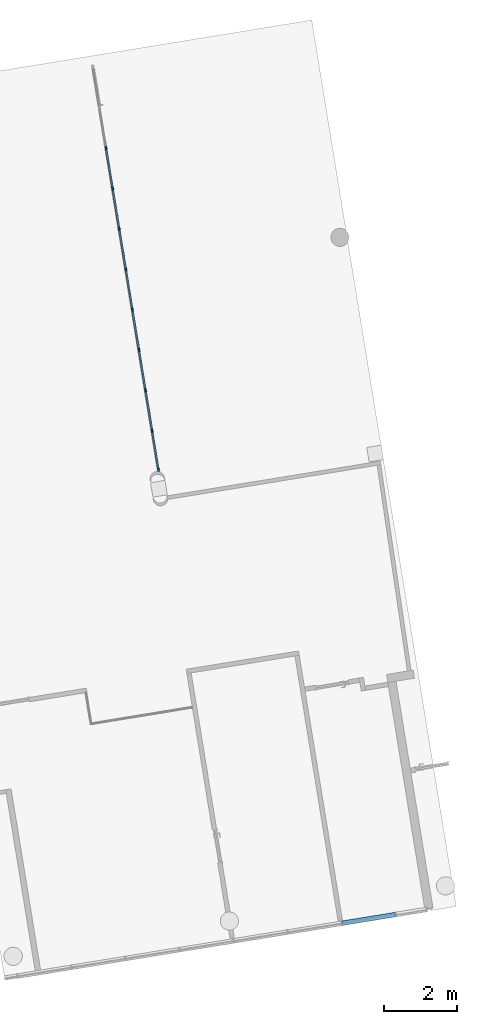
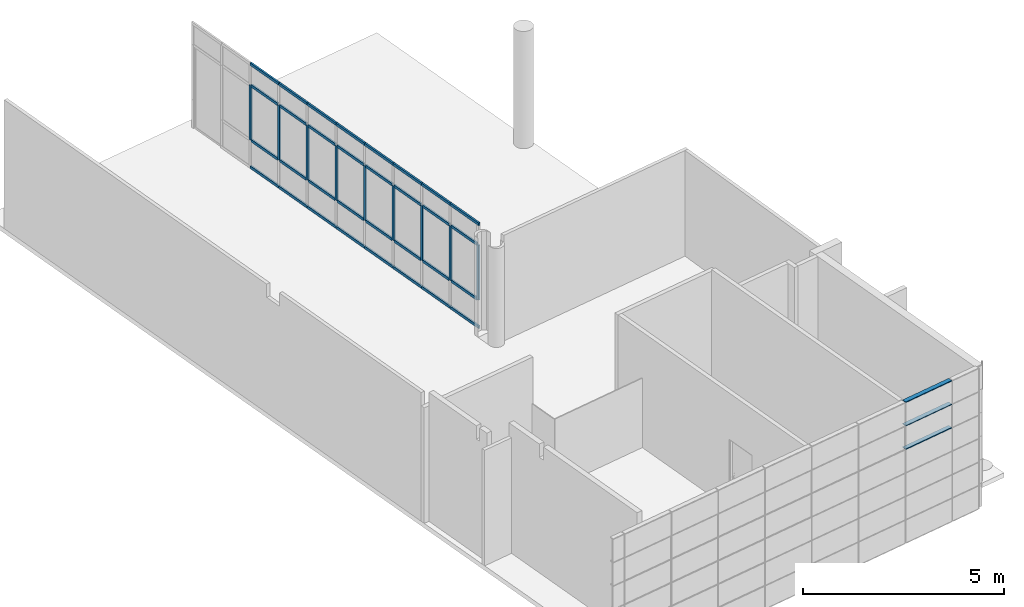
# One storey, part 2 of 18: 44 members, 2 elements without a shape of their own.
"""IFC2X3 building model written with IfcOpenShell, lengths in millimetres."""

from ifc_helpers import new_model, entity, si_unit, converted_unit, derived_unit, direction, frame, frame_2d, origin, origin_with_axes, origin_2d_with_axis, place, context, subcontext, project, spatial, rectangle, extrude, source, transform, mapped, material, type_object, element, aggregate, save


model = new_model("IFC2X3")

# Units and contexts
model_context = context("Model", 3, precision=0.01, world=origin(), true_north=direction((6.12323399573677e-17, 1.0)))
plan_context = context("Plan", 3, precision=1e-05, world=origin_with_axes())
body_context = subcontext(model_context, "Body", "Model", "MODEL_VIEW")
ifc_project = project(units=[converted_unit("PLANEANGLEUNIT", "DEGREE", entity("IfcPositiveLengthMeasure", 0.0174532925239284), si_unit("PLANEANGLEUNIT", "RADIAN"), dimensions=[0, 0, 0, 0, 0, 0, 0]), si_unit("AREAUNIT", "SQUARE_METRE"), si_unit("LENGTHUNIT", "METRE", prefix="MILLI"), si_unit("MASSUNIT", "GRAM", prefix="KILO"), si_unit("POWERUNIT", "WATT"), si_unit("PRESSUREUNIT", "PASCAL", prefix="KILO"), si_unit("FORCEUNIT", "NEWTON", prefix="KILO"), si_unit("ELECTRICVOLTAGEUNIT", "VOLT"), si_unit("ELECTRICCURRENTUNIT", "AMPERE"), si_unit("THERMODYNAMICTEMPERATUREUNIT", "DEGREE_CELSIUS"), si_unit("TIMEUNIT", "SECOND"), si_unit("VOLUMEUNIT", "CUBIC_METRE"), derived_unit("LINEARVELOCITYUNIT", [(si_unit("LENGTHUNIT", "METRE"), 1), (si_unit("TIMEUNIT", "SECOND"), -1)]), derived_unit("VOLUMETRICFLOWRATEUNIT", [(si_unit("VOLUMEUNIT", "CUBIC_METRE"), 1), (si_unit("TIMEUNIT", "SECOND"), -1)]), derived_unit("THERMALTRANSMITTANCEUNIT", [(si_unit("POWERUNIT", "WATT"), 1), (si_unit("THERMODYNAMICTEMPERATUREUNIT", "KELVIN"), -1), (si_unit("AREAUNIT", "SQUARE_METRE"), -1)]), derived_unit("SOUNDPRESSUREUNIT", [(si_unit("PRESSUREUNIT", "PASCAL"), 1)])], contexts=[model_context, plan_context])

# Site, building, storey
site_placement = place(None, frame((-305029.896016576, -232111.759730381, 0.0), z_axis=(0.0, 0.0, 1.0), x_axis=(-0.160806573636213, 0.986985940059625, 0.0)))
site = spatial("IfcSite", under=ifc_project, at=site_placement, Name="Default", CompositionType="ELEMENT")
building_placement = place(site_placement, frame((0.0, 0.0, 0.0), z_axis=(0.0, 0.0, 1.0), x_axis=(1.0, -2.77555756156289e-17, 0.0)))
building = spatial("IfcBuilding", under=site, at=building_placement, Name="br001-a-200-1-0001", CompositionType="ELEMENT")
storey_placement = place(building_placement, frame((0.0, 0.0, 55500.0), z_axis=(0.0, 0.0, 1.0), x_axis=(1.0, -2.77555756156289e-17, 0.0)))
storey = spatial("IfcBuildingStorey", under=building, at=storey_placement, Name="H02-Nivå F-3,5 m", CompositionType="ELEMENT", Elevation=55500.0)

# Curtain wall, members
curtain_wall_type_1 = type_object("IfcCurtainWallType", Name="Curtain Wall:Flesland int curt wall", PredefinedType="NOTDEFINED")
curtain_wall_1_placement = place(storey_placement, frame((0.0, 0.0, -55500.0), z_axis=(0.0, 0.0, 1.0), x_axis=(1.0, -2.77555756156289e-17, 0.0)))
curtain_wall_1 = element("IfcCurtainWall", 1, at=curtain_wall_1_placement, inside=storey, type_object=curtain_wall_type_1, Name="Curtain Wall:Flesland int curt wall", ObjectType="Curtain Wall:Flesland int curt wall")
ifc_material_1 = material(Name="Laminate - Ivory, Matte")
member_type_1 = type_object("IfcMemberType", Name="Rectangular Mullion:Flesland Int 25x125", PredefinedType="MULLION", material=ifc_material_1)
shared_shape_1 = source(origin(), body_context, "Body", "SweptSolid", [
    extrude(rectangle(XDim=25.0, YDim=125.0, at=frame_2d((0.0, 7.105427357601e-15), x_axis=(1.0, 0.0))), frame((0.0, 0.0, -1475.0), z_axis=(0.0, 0.0, 1.0), x_axis=(-1.0, 0.0, 0.0)), (0.0, 0.0, 1.0), 1475.00000000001),
])
member_1_placement = place(curtain_wall_1_placement, frame((1172125.09858442, -733281.378367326, 57617.5), z_axis=(-2.77555756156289e-17, -1.0, 0.0), x_axis=(0.0, 0.0, 1.0)))
member_1 = element("IfcMember", 2, at=member_1_placement, type_object=member_type_1, material=ifc_material_1, Name="Rectangular Mullion:Flesland Int 25x125", ObjectType="Rectangular Mullion:Flesland Int 25x125", context=body_context, shape_type="MappedRepresentation", body=[
    mapped(shared_shape_1, transform((0.0, 0.0, 0.0), scale=1.0)),
])
member_2_placement = place(curtain_wall_1_placement, frame((1172125.09858442, -733281.378367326, 58328.5), z_axis=(-2.77555756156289e-17, -1.0, 0.0), x_axis=(0.0, 0.0, 1.0)))
member_2 = element("IfcMember", 3, at=member_2_placement, type_object=member_type_1, material=ifc_material_1, Name="Rectangular Mullion:Flesland Int 25x125", ObjectType="Rectangular Mullion:Flesland Int 25x125", context=body_context, shape_type="MappedRepresentation", body=[
    mapped(shared_shape_1, transform((0.0, 0.0, 0.0), scale=1.0)),
])
member_3_placement = place(curtain_wall_1_placement, frame((1172125.09858442, -733281.378367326, 59039.5), z_axis=(-2.77555756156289e-17, -1.0, 0.0), x_axis=(0.0, 0.0, 1.0)))
member_3 = element("IfcMember", 4, at=member_3_placement, type_object=member_type_1, material=ifc_material_1, Name="Rectangular Mullion:Flesland Int 25x125", ObjectType="Rectangular Mullion:Flesland Int 25x125", context=body_context, shape_type="MappedRepresentation", body=[
    mapped(shared_shape_1, transform((0.0, 0.0, 0.0), scale=1.0)),
])
aggregate(curtain_wall_1, [member_1, member_2, member_3])

curtain_wall_type_2 = type_object("IfcCurtainWallType", Name="Curtain Wall:A243 Innvendig glassvegg", PredefinedType="NOTDEFINED")
curtain_wall_2_placement = place(storey_placement, frame((0.0, 0.0, -55500.0), z_axis=(0.0, 0.0, 1.0), x_axis=(1.0, -2.77555756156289e-17, 0.0)))
curtain_wall_2 = element("IfcCurtainWall", 5, at=curtain_wall_2_placement, inside=storey, type_object=curtain_wall_type_2, Name="Curtain Wall:A243 Innvendig glassvegg", ObjectType="Curtain Wall:A243 Innvendig glassvegg")
ifc_material_2 = material(Name="Metal - Aluminium")
member_type_2 = type_object("IfcMemberType", Name="Rectangular Mullion:80 x 50  mm", PredefinedType="MULLION", material=ifc_material_2)
shared_shape_2 = source(origin(), body_context, "Body", "SweptSolid", [
    extrude(rectangle(XDim=80.0, YDim=50.0, at=origin_2d_with_axis()), frame((-40.0, 0.0, -1121.66666666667), z_axis=(0.0, 0.0, 1.0), x_axis=(-1.0, 0.0, 0.0)), (0.0, 0.0, 1.0), 1121.66666666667),
])
member_4_placement = place(curtain_wall_2_placement, frame((1185153.59858442, -728835.878367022, 55500.0), z_axis=(-1.0, 2.77555756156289e-17, 0.0), x_axis=(0.0, 0.0, -1.0)))
member_4 = element("IfcMember", 6, at=member_4_placement, type_object=member_type_2, material=ifc_material_2, Name="Rectangular Mullion:80 x 50  mm", ObjectType="Rectangular Mullion:80 x 50  mm", context=body_context, shape_type="MappedRepresentation", body=[
    mapped(shared_shape_2, transform((0.0, 0.0, 0.0), scale=1.0)),
])
member_type_3 = type_object("IfcMemberType", Name="Rectangular Mullion:80 x 50  mm", PredefinedType="MULLION", material=ifc_material_2)
member_5_placement = place(curtain_wall_2_placement, frame((1187396.93191775, -728835.878367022, 55500.0), z_axis=(-1.0, 2.77555756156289e-17, 0.0), x_axis=(0.0, 0.0, -1.0)))
member_5 = element("IfcMember", 7, at=member_5_placement, type_object=member_type_3, material=ifc_material_2, Name="Rectangular Mullion:80 x 50  mm", ObjectType="Rectangular Mullion:80 x 50  mm", context=body_context, shape_type="MappedRepresentation", body=[
    mapped(shared_shape_2, transform((0.0, 0.0, 0.0), scale=1.0)),
])
member_6_placement = place(curtain_wall_2_placement, frame((1186275.26525108, -728835.878367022, 55500.0), z_axis=(-1.0, 2.77555756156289e-17, 0.0), x_axis=(0.0, 0.0, -1.0)))
member_6 = element("IfcMember", 8, at=member_6_placement, type_object=member_type_3, material=ifc_material_2, Name="Rectangular Mullion:80 x 50  mm", ObjectType="Rectangular Mullion:80 x 50  mm", context=body_context, shape_type="MappedRepresentation", body=[
    mapped(shared_shape_2, transform((0.0, 0.0, 0.0), scale=1.0)),
])
member_type_4 = type_object("IfcMemberType", Name="Rectangular Mullion:80 x 50  mm", PredefinedType="MULLION", material=ifc_material_2)
member_7_placement = place(curtain_wall_2_placement, frame((1188518.59858442, -728835.878367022, 58700.0), z_axis=(1.0, -2.77555756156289e-17, 0.0), x_axis=(0.0, 0.0, 1.0)))
member_7 = element("IfcMember", 9, at=member_7_placement, type_object=member_type_4, material=ifc_material_2, Name="Rectangular Mullion:80 x 50  mm", ObjectType="Rectangular Mullion:80 x 50  mm", context=body_context, shape_type="MappedRepresentation", body=[
    mapped(shared_shape_2, transform((0.0, 0.0, 0.0), scale=1.0)),
])
member_8_placement = place(curtain_wall_2_placement, frame((1187396.93191775, -728835.878367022, 58700.0), z_axis=(1.0, -2.77555756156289e-17, 0.0), x_axis=(0.0, 0.0, 1.0)))
member_8 = element("IfcMember", 10, at=member_8_placement, type_object=member_type_4, material=ifc_material_2, Name="Rectangular Mullion:80 x 50  mm", ObjectType="Rectangular Mullion:80 x 50  mm", context=body_context, shape_type="MappedRepresentation", body=[
    mapped(shared_shape_2, transform((0.0, 0.0, 0.0), scale=1.0)),
])
member_type_5 = type_object("IfcMemberType", Name="Rectangular Mullion:80 x 50  mm", PredefinedType="MULLION", material=ifc_material_2)
member_9_placement = place(curtain_wall_2_placement, frame((1186275.26525108, -728835.878367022, 58700.0), z_axis=(1.0, -2.77555756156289e-17, 0.0), x_axis=(0.0, 0.0, 1.0)))
member_9 = element("IfcMember", 11, at=member_9_placement, type_object=member_type_5, material=ifc_material_2, Name="Rectangular Mullion:80 x 50  mm", ObjectType="Rectangular Mullion:80 x 50  mm", context=body_context, shape_type="MappedRepresentation", body=[
    mapped(shared_shape_2, transform((0.0, 0.0, 0.0), scale=1.0)),
])
member_type_6 = type_object("IfcMemberType", Name="Rectangular Mullion:80 x 50  mm", PredefinedType="MULLION", material=ifc_material_2)
shared_shape_3 = source(origin(), body_context, "Body", "SweptSolid", [
    extrude(rectangle(XDim=80.0, YDim=50.0, at=origin_2d_with_axis()), frame((0.0, 0.0, -1001.66666666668), z_axis=(0.0, 0.0, 1.0), x_axis=(-1.0, 0.0, 0.0)), (0.0, 0.0, 1.0), 1001.66666666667),
])
member_10_placement = place(curtain_wall_2_placement, frame((1186235.26525108, -728835.878367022, 56360.0), z_axis=(1.0, -2.77555756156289e-17, 0.0), x_axis=(0.0, 0.0, 1.0)))
member_10 = element("IfcMember", 12, at=member_10_placement, type_object=member_type_6, material=ifc_material_2, Name="Rectangular Mullion:80 x 50  mm", ObjectType="Rectangular Mullion:80 x 50  mm", context=body_context, shape_type="MappedRepresentation", body=[
    mapped(shared_shape_3, transform((0.0, 0.0, 0.0), scale=1.0)),
])
member_11_placement = place(curtain_wall_2_placement, frame((1186235.26525108, -728835.878367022, 58020.0), z_axis=(1.0, -2.77555756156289e-17, 0.0), x_axis=(0.0, 0.0, 1.0)))
member_11 = element("IfcMember", 13, at=member_11_placement, type_object=member_type_6, material=ifc_material_2, Name="Rectangular Mullion:80 x 50  mm", ObjectType="Rectangular Mullion:80 x 50  mm", context=body_context, shape_type="MappedRepresentation", body=[
    mapped(shared_shape_3, transform((0.0, 0.0, 0.0), scale=1.0)),
])
member_type_7 = type_object("IfcMemberType", Name="Rectangular Mullion:80 x 50  mm", PredefinedType="MULLION", material=ifc_material_2)
shared_shape_4 = source(origin(), body_context, "Body", "SweptSolid", [
    extrude(rectangle(XDim=80.0, YDim=50.0, at=origin_2d_with_axis()), frame((0.0, 0.0, -1040.0), z_axis=(0.0, 0.0, 1.0), x_axis=(-1.0, 0.0, 0.0)), (0.0, 0.0, 1.0), 1040.00000000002),
])
member_12_placement = place(curtain_wall_2_placement, frame((1192958.59858442, -728835.878367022, 56360.0), z_axis=(1.0, -2.77555756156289e-17, 0.0), x_axis=(0.0, 0.0, 1.0)))
member_12 = element("IfcMember", 14, at=member_12_placement, type_object=member_type_7, material=ifc_material_2, Name="Rectangular Mullion:80 x 50  mm", ObjectType="Rectangular Mullion:80 x 50  mm", context=body_context, shape_type="MappedRepresentation", body=[
    mapped(shared_shape_4, transform((0.0, 0.0, 0.0), scale=1.0)),
])
member_13_placement = place(curtain_wall_2_placement, frame((1189598.59858442, -728835.878367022, 56360.0), z_axis=(1.0, -2.77555756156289e-17, 0.0), x_axis=(0.0, 0.0, 1.0)))
member_13 = element("IfcMember", 15, at=member_13_placement, type_object=member_type_7, material=ifc_material_2, Name="Rectangular Mullion:80 x 50  mm", ObjectType="Rectangular Mullion:80 x 50  mm", context=body_context, shape_type="MappedRepresentation", body=[
    mapped(shared_shape_4, transform((0.0, 0.0, 0.0), scale=1.0)),
])
member_14_placement = place(curtain_wall_2_placement, frame((1192958.59858442, -728835.878367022, 58020.0), z_axis=(1.0, -2.77555756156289e-17, 0.0), x_axis=(0.0, 0.0, 1.0)))
member_14 = element("IfcMember", 16, at=member_14_placement, type_object=member_type_7, material=ifc_material_2, Name="Rectangular Mullion:80 x 50  mm", ObjectType="Rectangular Mullion:80 x 50  mm", context=body_context, shape_type="MappedRepresentation", body=[
    mapped(shared_shape_4, transform((0.0, 0.0, 0.0), scale=1.0)),
])
member_15_placement = place(curtain_wall_2_placement, frame((1189598.59858442, -728835.878367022, 58020.0), z_axis=(1.0, -2.77555756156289e-17, 0.0), x_axis=(0.0, 0.0, 1.0)))
member_15 = element("IfcMember", 17, at=member_15_placement, type_object=member_type_7, material=ifc_material_2, Name="Rectangular Mullion:80 x 50  mm", ObjectType="Rectangular Mullion:80 x 50  mm", context=body_context, shape_type="MappedRepresentation", body=[
    mapped(shared_shape_4, transform((0.0, 0.0, 0.0), scale=1.0)),
])
member_type_8 = type_object("IfcMemberType", Name="Rectangular Mullion:80 x 50  mm", PredefinedType="MULLION", material=ifc_material_2)
shared_shape_5 = source(origin(), body_context, "Body", "SweptSolid", [
    extrude(rectangle(XDim=80.0, YDim=50.0, at=origin_2d_with_axis()), frame((0.0, 0.0, -1045.0), z_axis=(0.0, 0.0, 1.0), x_axis=(-1.0, 0.0, 0.0)), (0.0, 0.0, 1.0), 1044.99999999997),
])
member_16_placement = place(curtain_wall_2_placement, frame((1194083.59858442, -728835.878367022, 56360.0), z_axis=(1.0, -2.77555756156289e-17, 0.0), x_axis=(0.0, 0.0, 1.0)))
member_16 = element("IfcMember", 18, at=member_16_placement, type_object=member_type_8, material=ifc_material_2, Name="Rectangular Mullion:80 x 50  mm", ObjectType="Rectangular Mullion:80 x 50  mm", context=body_context, shape_type="MappedRepresentation", body=[
    mapped(shared_shape_5, transform((0.0, 0.0, 0.0), scale=1.0)),
])
member_17_placement = place(curtain_wall_2_placement, frame((1191838.59858442, -728835.878367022, 56360.0), z_axis=(1.0, -2.77555756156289e-17, 0.0), x_axis=(0.0, 0.0, 1.0)))
member_17 = element("IfcMember", 19, at=member_17_placement, type_object=member_type_8, material=ifc_material_2, Name="Rectangular Mullion:80 x 50  mm", ObjectType="Rectangular Mullion:80 x 50  mm", context=body_context, shape_type="MappedRepresentation", body=[
    mapped(shared_shape_5, transform((0.0, 0.0, 0.0), scale=1.0)),
])
member_18_placement = place(curtain_wall_2_placement, frame((1194083.59858442, -728835.878367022, 58020.0), z_axis=(1.0, -2.77555756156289e-17, 0.0), x_axis=(0.0, 0.0, 1.0)))
member_18 = element("IfcMember", 20, at=member_18_placement, type_object=member_type_8, material=ifc_material_2, Name="Rectangular Mullion:80 x 50  mm", ObjectType="Rectangular Mullion:80 x 50  mm", context=body_context, shape_type="MappedRepresentation", body=[
    mapped(shared_shape_5, transform((0.0, 0.0, 0.0), scale=1.0)),
])
member_19_placement = place(curtain_wall_2_placement, frame((1191838.59858442, -728835.878367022, 58020.0), z_axis=(1.0, -2.77555756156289e-17, 0.0), x_axis=(0.0, 0.0, 1.0)))
member_19 = element("IfcMember", 21, at=member_19_placement, type_object=member_type_8, material=ifc_material_2, Name="Rectangular Mullion:80 x 50  mm", ObjectType="Rectangular Mullion:80 x 50  mm", context=body_context, shape_type="MappedRepresentation", body=[
    mapped(shared_shape_5, transform((0.0, 0.0, 0.0), scale=1.0)),
])
member_type_9 = type_object("IfcMemberType", Name="Rectangular Mullion:80 x 50  mm", PredefinedType="MULLION", material=ifc_material_2)
shared_shape_6 = source(origin(), body_context, "Body", "SweptSolid", [
    extrude(rectangle(XDim=80.0, YDim=50.0, at=origin_2d_with_axis()), frame((0.0, 0.0, -1035.0), z_axis=(0.0, 0.0, 1.0), x_axis=(-1.0, 0.0, 0.0)), (0.0, 0.0, 1.0), 1034.99999999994),
])
member_20_placement = place(curtain_wall_2_placement, frame((1190713.59858442, -728835.878367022, 56360.0), z_axis=(1.0, -2.77555756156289e-17, 0.0), x_axis=(0.0, 0.0, 1.0)))
member_20 = element("IfcMember", 22, at=member_20_placement, type_object=member_type_9, material=ifc_material_2, Name="Rectangular Mullion:80 x 50  mm", ObjectType="Rectangular Mullion:80 x 50  mm", context=body_context, shape_type="MappedRepresentation", body=[
    mapped(shared_shape_6, transform((0.0, 0.0, 0.0), scale=1.0)),
])
member_21_placement = place(curtain_wall_2_placement, frame((1190713.59858442, -728835.878367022, 58020.0), z_axis=(1.0, -2.77555756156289e-17, 0.0), x_axis=(0.0, 0.0, 1.0)))
member_21 = element("IfcMember", 23, at=member_21_placement, type_object=member_type_9, material=ifc_material_2, Name="Rectangular Mullion:80 x 50  mm", ObjectType="Rectangular Mullion:80 x 50  mm", context=body_context, shape_type="MappedRepresentation", body=[
    mapped(shared_shape_6, transform((0.0, 0.0, 0.0), scale=1.0)),
])
member_type_10 = type_object("IfcMemberType", Name="Rectangular Mullion:80 x 50  mm", PredefinedType="MULLION", material=ifc_material_2)
shared_shape_7 = source(origin(), body_context, "Body", "SweptSolid", [
    extrude(rectangle(XDim=80.0, YDim=50.0, at=origin_2d_with_axis()), frame((0.0, 0.0, -1041.66666666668), z_axis=(0.0, 0.0, 1.0), x_axis=(-1.0, 0.0, 0.0)), (0.0, 0.0, 1.0), 1041.66666666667),
])
member_22_placement = place(curtain_wall_2_placement, frame((1188478.59858442, -728835.878367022, 56360.0), z_axis=(1.0, -2.77555756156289e-17, 0.0), x_axis=(0.0, 0.0, 1.0)))
member_22 = element("IfcMember", 24, at=member_22_placement, type_object=member_type_10, material=ifc_material_2, Name="Rectangular Mullion:80 x 50  mm", ObjectType="Rectangular Mullion:80 x 50  mm", context=body_context, shape_type="MappedRepresentation", body=[
    mapped(shared_shape_7, transform((0.0, 0.0, 0.0), scale=1.0)),
])
member_23_placement = place(curtain_wall_2_placement, frame((1187356.93191775, -728835.878367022, 56360.0), z_axis=(1.0, -2.77555756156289e-17, 0.0), x_axis=(0.0, 0.0, 1.0)))
member_23 = element("IfcMember", 25, at=member_23_placement, type_object=member_type_10, material=ifc_material_2, Name="Rectangular Mullion:80 x 50  mm", ObjectType="Rectangular Mullion:80 x 50  mm", context=body_context, shape_type="MappedRepresentation", body=[
    mapped(shared_shape_7, transform((0.0, 0.0, 0.0), scale=1.0)),
])
member_24_placement = place(curtain_wall_2_placement, frame((1188478.59858442, -728835.878367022, 58020.0), z_axis=(1.0, -2.77555756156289e-17, 0.0), x_axis=(0.0, 0.0, 1.0)))
member_24 = element("IfcMember", 26, at=member_24_placement, type_object=member_type_10, material=ifc_material_2, Name="Rectangular Mullion:80 x 50  mm", ObjectType="Rectangular Mullion:80 x 50  mm", context=body_context, shape_type="MappedRepresentation", body=[
    mapped(shared_shape_7, transform((0.0, 0.0, 0.0), scale=1.0)),
])
member_25_placement = place(curtain_wall_2_placement, frame((1187356.93191775, -728835.878367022, 58020.0), z_axis=(1.0, -2.77555756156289e-17, 0.0), x_axis=(0.0, 0.0, 1.0)))
member_25 = element("IfcMember", 27, at=member_25_placement, type_object=member_type_10, material=ifc_material_2, Name="Rectangular Mullion:80 x 50  mm", ObjectType="Rectangular Mullion:80 x 50  mm", context=body_context, shape_type="MappedRepresentation", body=[
    mapped(shared_shape_7, transform((0.0, 0.0, 0.0), scale=1.0)),
])
member_type_11 = type_object("IfcMemberType", Name="Rectangular Mullion:80 x 50  mm", PredefinedType="MULLION", material=ifc_material_2)
shared_shape_8 = source(origin(), body_context, "Body", "SweptSolid", [
    extrude(rectangle(XDim=80.0, YDim=50.0, at=origin_2d_with_axis()), frame((-40.0, 0.0, -1125.0), z_axis=(0.0, 0.0, 1.0), x_axis=(-1.0, 0.0, 0.0)), (0.0, 0.0, 1.0), 1124.99999999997),
])
member_26_placement = place(curtain_wall_2_placement, frame((1192998.59858442, -728835.878367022, 55500.0), z_axis=(-1.0, 2.77555756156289e-17, 0.0), x_axis=(0.0, 0.0, -1.0)))
member_26 = element("IfcMember", 28, at=member_26_placement, type_object=member_type_11, material=ifc_material_2, Name="Rectangular Mullion:80 x 50  mm", ObjectType="Rectangular Mullion:80 x 50  mm", context=body_context, shape_type="MappedRepresentation", body=[
    mapped(shared_shape_8, transform((0.0, 0.0, 0.0), scale=1.0)),
])
member_27_placement = place(curtain_wall_2_placement, frame((1190753.59858442, -728835.878367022, 55500.0), z_axis=(-1.0, 2.77555756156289e-17, 0.0), x_axis=(0.0, 0.0, -1.0)))
member_27 = element("IfcMember", 29, at=member_27_placement, type_object=member_type_11, material=ifc_material_2, Name="Rectangular Mullion:80 x 50  mm", ObjectType="Rectangular Mullion:80 x 50  mm", context=body_context, shape_type="MappedRepresentation", body=[
    mapped(shared_shape_8, transform((0.0, 0.0, 0.0), scale=1.0)),
])
member_type_12 = type_object("IfcMemberType", Name="Rectangular Mullion:80 x 50  mm", PredefinedType="MULLION", material=ifc_material_2)
member_28_placement = place(curtain_wall_2_placement, frame((1194123.59858442, -728835.878367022, 58700.0), z_axis=(1.0, -2.77555756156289e-17, 0.0), x_axis=(0.0, 0.0, 1.0)))
member_28 = element("IfcMember", 30, at=member_28_placement, type_object=member_type_12, material=ifc_material_2, Name="Rectangular Mullion:80 x 50  mm", ObjectType="Rectangular Mullion:80 x 50  mm", context=body_context, shape_type="MappedRepresentation", body=[
    mapped(shared_shape_8, transform((0.0, 0.0, 0.0), scale=1.0)),
])
member_29_placement = place(curtain_wall_2_placement, frame((1191878.59858442, -728835.878367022, 58700.0), z_axis=(1.0, -2.77555756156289e-17, 0.0), x_axis=(0.0, 0.0, 1.0)))
member_29 = element("IfcMember", 31, at=member_29_placement, type_object=member_type_12, material=ifc_material_2, Name="Rectangular Mullion:80 x 50  mm", ObjectType="Rectangular Mullion:80 x 50  mm", context=body_context, shape_type="MappedRepresentation", body=[
    mapped(shared_shape_8, transform((0.0, 0.0, 0.0), scale=1.0)),
])
member_type_13 = type_object("IfcMemberType", Name="Rectangular Mullion:80 x 50  mm", PredefinedType="MULLION", material=ifc_material_2)
shared_shape_9 = source(origin(), body_context, "Body", "SweptSolid", [
    extrude(rectangle(XDim=80.0, YDim=50.0, at=origin_2d_with_axis()), frame((-40.0, 0.0, -1120.0), z_axis=(0.0, 0.0, 1.0), x_axis=(-1.0, 0.0, 0.0)), (0.0, 0.0, 1.0), 1120.00000000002),
])
member_30_placement = place(curtain_wall_2_placement, frame((1191878.59858442, -728835.878367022, 55500.0), z_axis=(-1.0, 2.77555756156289e-17, 0.0), x_axis=(0.0, 0.0, -1.0)))
member_30 = element("IfcMember", 32, at=member_30_placement, type_object=member_type_13, material=ifc_material_2, Name="Rectangular Mullion:80 x 50  mm", ObjectType="Rectangular Mullion:80 x 50  mm", context=body_context, shape_type="MappedRepresentation", body=[
    mapped(shared_shape_9, transform((0.0, 0.0, 0.0), scale=1.0)),
])
member_31_placement = place(curtain_wall_2_placement, frame((1188518.59858442, -728835.878367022, 55500.0), z_axis=(-1.0, 2.77555756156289e-17, 0.0), x_axis=(0.0, 0.0, -1.0)))
member_31 = element("IfcMember", 33, at=member_31_placement, type_object=member_type_13, material=ifc_material_2, Name="Rectangular Mullion:80 x 50  mm", ObjectType="Rectangular Mullion:80 x 50  mm", context=body_context, shape_type="MappedRepresentation", body=[
    mapped(shared_shape_9, transform((0.0, 0.0, 0.0), scale=1.0)),
])
member_type_14 = type_object("IfcMemberType", Name="Rectangular Mullion:80 x 50  mm", PredefinedType="MULLION", material=ifc_material_2)
member_32_placement = place(curtain_wall_2_placement, frame((1192998.59858442, -728835.878367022, 58700.0), z_axis=(1.0, -2.77555756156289e-17, 0.0), x_axis=(0.0, 0.0, 1.0)))
member_32 = element("IfcMember", 34, at=member_32_placement, type_object=member_type_14, material=ifc_material_2, Name="Rectangular Mullion:80 x 50  mm", ObjectType="Rectangular Mullion:80 x 50  mm", context=body_context, shape_type="MappedRepresentation", body=[
    mapped(shared_shape_9, transform((0.0, 0.0, 0.0), scale=1.0)),
])
member_33_placement = place(curtain_wall_2_placement, frame((1189638.59858442, -728835.878367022, 58700.0), z_axis=(1.0, -2.77555756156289e-17, 0.0), x_axis=(0.0, 0.0, 1.0)))
member_33 = element("IfcMember", 35, at=member_33_placement, type_object=member_type_14, material=ifc_material_2, Name="Rectangular Mullion:80 x 50  mm", ObjectType="Rectangular Mullion:80 x 50  mm", context=body_context, shape_type="MappedRepresentation", body=[
    mapped(shared_shape_9, transform((0.0, 0.0, 0.0), scale=1.0)),
])
member_type_15 = type_object("IfcMemberType", Name="Rectangular Mullion:80 x 50  mm", PredefinedType="MULLION", material=ifc_material_2)
shared_shape_10 = source(origin(), body_context, "Body", "SweptSolid", [
    extrude(rectangle(XDim=80.0, YDim=50.0, at=origin_2d_with_axis()), frame((-40.0, 0.0, -1115.0), z_axis=(0.0, 0.0, 1.0), x_axis=(-1.0, 0.0, 0.0)), (0.0, 0.0, 1.0), 1114.99999999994),
])
member_34_placement = place(curtain_wall_2_placement, frame((1189638.59858442, -728835.878367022, 55500.0), z_axis=(-1.0, 2.77555756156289e-17, 0.0), x_axis=(0.0, 0.0, -1.0)))
member_34 = element("IfcMember", 36, at=member_34_placement, type_object=member_type_15, material=ifc_material_2, Name="Rectangular Mullion:80 x 50  mm", ObjectType="Rectangular Mullion:80 x 50  mm", context=body_context, shape_type="MappedRepresentation", body=[
    mapped(shared_shape_10, transform((0.0, 0.0, 0.0), scale=1.0)),
])
member_type_16 = type_object("IfcMemberType", Name="Rectangular Mullion:80 x 50  mm", PredefinedType="MULLION", material=ifc_material_2)
member_35_placement = place(curtain_wall_2_placement, frame((1190753.59858442, -728835.878367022, 58700.0), z_axis=(1.0, -2.77555756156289e-17, 0.0), x_axis=(0.0, 0.0, 1.0)))
member_35 = element("IfcMember", 37, at=member_35_placement, type_object=member_type_16, material=ifc_material_2, Name="Rectangular Mullion:80 x 50  mm", ObjectType="Rectangular Mullion:80 x 50  mm", context=body_context, shape_type="MappedRepresentation", body=[
    mapped(shared_shape_10, transform((0.0, 0.0, 0.0), scale=1.0)),
])
member_type_17 = type_object("IfcMemberType", Name="Rectangular Mullion:80 x 50  mm", PredefinedType="MULLION", material=ifc_material_2)
shared_shape_11 = source(origin(), body_context, "Body", "SweptSolid", [
    extrude(rectangle(XDim=80.0, YDim=50.0, at=origin_2d_with_axis()), frame((-40.0, 0.0, -1660.0), z_axis=(0.0, 0.0, 1.0), x_axis=(-1.0, 0.0, 0.0)), (0.0, 0.0, 1.0), 1660.0),
])
member_36_placement = place(curtain_wall_2_placement, frame((1185153.59858442, -728835.878367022, 58020.0), z_axis=(0.0, 0.0, 1.0), x_axis=(-1.0, 2.77555756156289e-17, 0.0)))
member_36 = element("IfcMember", 38, at=member_36_placement, type_object=member_type_17, material=ifc_material_2, Name="Rectangular Mullion:80 x 50  mm", ObjectType="Rectangular Mullion:80 x 50  mm", context=body_context, shape_type="MappedRepresentation", body=[
    mapped(shared_shape_11, transform((0.0, 0.0, 0.0), scale=1.0)),
])
member_type_18 = type_object("IfcMemberType", Name="Rectangular Mullion:80 x 50  mm", PredefinedType="MULLION", material=ifc_material_2)
shared_shape_12 = source(origin(), body_context, "Body", "SweptSolid", [
    extrude(rectangle(XDim=80.0, YDim=50.0, at=origin_2d_with_axis()), frame((0.0, 0.0, -1660.0), z_axis=(0.0, 0.0, 1.0), x_axis=(-1.0, 0.0, 0.0)), (0.0, 0.0, 1.0), 1660.0),
])
member_37_placement = place(curtain_wall_2_placement, frame((1194123.59858442, -728835.878367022, 56360.0), z_axis=(0.0, 0.0, -1.0), x_axis=(1.0, -2.77555756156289e-17, 0.0)))
member_37 = element("IfcMember", 39, at=member_37_placement, type_object=member_type_18, material=ifc_material_2, Name="Rectangular Mullion:80 x 50  mm", ObjectType="Rectangular Mullion:80 x 50  mm", context=body_context, shape_type="MappedRepresentation", body=[
    mapped(shared_shape_12, transform((0.0, 0.0, 0.0), scale=1.0)),
])
member_38_placement = place(curtain_wall_2_placement, frame((1192998.59858442, -728835.878367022, 56360.0), z_axis=(0.0, 0.0, -1.0), x_axis=(1.0, -2.77555756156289e-17, 0.0)))
member_38 = element("IfcMember", 40, at=member_38_placement, type_object=member_type_18, material=ifc_material_2, Name="Rectangular Mullion:80 x 50  mm", ObjectType="Rectangular Mullion:80 x 50  mm", context=body_context, shape_type="MappedRepresentation", body=[
    mapped(shared_shape_12, transform((0.0, 0.0, 0.0), scale=1.0)),
])
member_39_placement = place(curtain_wall_2_placement, frame((1191878.59858442, -728835.878367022, 56360.0), z_axis=(0.0, 0.0, -1.0), x_axis=(1.0, -2.77555756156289e-17, 0.0)))
member_39 = element("IfcMember", 41, at=member_39_placement, type_object=member_type_18, material=ifc_material_2, Name="Rectangular Mullion:80 x 50  mm", ObjectType="Rectangular Mullion:80 x 50  mm", context=body_context, shape_type="MappedRepresentation", body=[
    mapped(shared_shape_12, transform((0.0, 0.0, 0.0), scale=1.0)),
])
member_40_placement = place(curtain_wall_2_placement, frame((1190753.59858442, -728835.878367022, 56360.0), z_axis=(0.0, 0.0, -1.0), x_axis=(1.0, -2.77555756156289e-17, 0.0)))
member_40 = element("IfcMember", 42, at=member_40_placement, type_object=member_type_18, material=ifc_material_2, Name="Rectangular Mullion:80 x 50  mm", ObjectType="Rectangular Mullion:80 x 50  mm", context=body_context, shape_type="MappedRepresentation", body=[
    mapped(shared_shape_12, transform((0.0, 0.0, 0.0), scale=1.0)),
])
member_41_placement = place(curtain_wall_2_placement, frame((1189638.59858442, -728835.878367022, 56360.0), z_axis=(0.0, 0.0, -1.0), x_axis=(1.0, -2.77555756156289e-17, 0.0)))
member_41 = element("IfcMember", 43, at=member_41_placement, type_object=member_type_18, material=ifc_material_2, Name="Rectangular Mullion:80 x 50  mm", ObjectType="Rectangular Mullion:80 x 50  mm", context=body_context, shape_type="MappedRepresentation", body=[
    mapped(shared_shape_12, transform((0.0, 0.0, 0.0), scale=1.0)),
])
member_42_placement = place(curtain_wall_2_placement, frame((1188518.59858442, -728835.878367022, 56360.0), z_axis=(0.0, 0.0, -1.0), x_axis=(1.0, -2.77555756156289e-17, 0.0)))
member_42 = element("IfcMember", 44, at=member_42_placement, type_object=member_type_18, material=ifc_material_2, Name="Rectangular Mullion:80 x 50  mm", ObjectType="Rectangular Mullion:80 x 50  mm", context=body_context, shape_type="MappedRepresentation", body=[
    mapped(shared_shape_12, transform((0.0, 0.0, 0.0), scale=1.0)),
])
member_43_placement = place(curtain_wall_2_placement, frame((1187396.93191775, -728835.878367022, 56360.0), z_axis=(0.0, 0.0, -1.0), x_axis=(1.0, -2.77555756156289e-17, 0.0)))
member_43 = element("IfcMember", 45, at=member_43_placement, type_object=member_type_18, material=ifc_material_2, Name="Rectangular Mullion:80 x 50  mm", ObjectType="Rectangular Mullion:80 x 50  mm", context=body_context, shape_type="MappedRepresentation", body=[
    mapped(shared_shape_12, transform((0.0, 0.0, 0.0), scale=1.0)),
])
member_44_placement = place(curtain_wall_2_placement, frame((1186275.26525108, -728835.878367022, 56360.0), z_axis=(0.0, 0.0, -1.0), x_axis=(1.0, -2.77555756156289e-17, 0.0)))
member_44 = element("IfcMember", 46, at=member_44_placement, type_object=member_type_18, material=ifc_material_2, Name="Rectangular Mullion:80 x 50  mm", ObjectType="Rectangular Mullion:80 x 50  mm", context=body_context, shape_type="MappedRepresentation", body=[
    mapped(shared_shape_12, transform((0.0, 0.0, 0.0), scale=1.0)),
])
aggregate(curtain_wall_2, [member_4, member_10, member_16, member_12, member_17, member_20, member_13, member_22, member_23, member_11, member_18, member_14, member_19, member_21, member_15, member_24, member_25, member_26, member_30, member_27, member_34, member_31, member_5, member_6, member_28, member_32, member_29, member_35, member_33, member_7, member_8, member_9, member_36, member_37, member_38, member_39, member_40, member_41, member_42, member_43, member_44])

save(model, "model.ifc")
